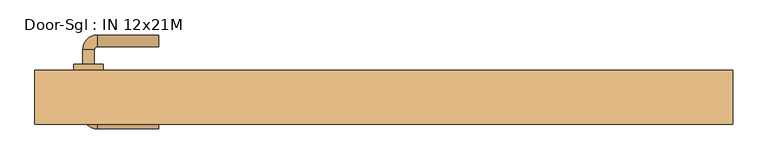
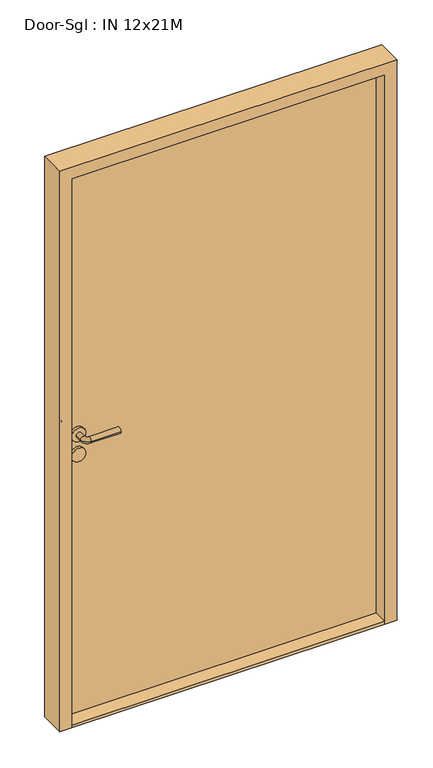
"""IFC4 building model written with IfcOpenShell, lengths in millimetres: door geometry, Door-Sgl : IN 12x21M."""

import ifcopenshell
import ifcopenshell.guid

model = None  # the IFC model being written
_history = None  # IfcOwnerHistory: only IFC2X3 demands one
_inside = {}  # id of a spatial element -> (the spatial element, [elements in it])
_under = {}  # id of a project, library or spatial element -> (it, [spatial elements below it])
_declared = {}  # id of a project -> (the project, [libraries it declares])
_typed = {}  # id of a type object -> (the type object, [elements of that type])
_made_of = {}  # id of a material, layer set ... -> (it, [elements and type objects made of it])


def new_model(schema):
    """Start an empty IFC model of exactly this schema.

    Asked for "IFC4X3", IfcOpenShell would pick the latest addendum, in which some entities
    have other attributes; the version numbers below select the first issue.
    IFC2X3 requires an IfcOwnerHistory on every rooted entity: one is made here for all.
    """
    global model, _history
    if schema == "IFC4X3":
        model = ifcopenshell.file(schema_version=(4, 3, 0, 0))
    else:
        model = ifcopenshell.file(schema=schema)
    _inside.clear()
    _under.clear()
    _declared.clear()
    _typed.clear()
    _made_of.clear()
    _history = None
    if model.schema == "IFC2X3":
        org = make("IfcOrganization", Name="unknown")
        user = make(
            "IfcPersonAndOrganization",
            ThePerson=make("IfcPerson", FamilyName="unknown"),
            TheOrganization=org,
        )
        app = make(
            "IfcApplication",
            ApplicationDeveloper=org,
            Version="unknown",
            ApplicationFullName="unknown",
            ApplicationIdentifier="unknown",
        )
        _history = make(
            "IfcOwnerHistory",
            OwningUser=user,
            OwningApplication=app,
            ChangeAction="ADDED",
            CreationDate=0,
        )
    return model


def make(cls, **values):
    """One entity of the class cls with the attributes given. An attribute that is None is left unset."""
    return model.create_entity(
        cls, **{name: value for name, value in values.items() if value is not None}
    )


def rooted(cls, **values):
    """An entity with a GlobalId (a new one), such as an element, a storey or a relation."""
    return make(cls, GlobalId=ifcopenshell.guid.new(), OwnerHistory=_history, **values)


def si_unit(unit_type, name, prefix=None):
    """IfcSIUnit, for example si_unit("LENGTHUNIT", "METRE", prefix="MILLI")."""
    return make("IfcSIUnit", UnitType=unit_type, Prefix=prefix, Name=name)


def assignment(units):
    """IfcUnitAssignment: the units of a project."""
    return None if units is None else make("IfcUnitAssignment", Units=units)


def point(xyz):
    """IfcCartesianPoint."""
    return None if xyz is None else make("IfcCartesianPoint", Coordinates=xyz)


def direction(xyz):
    """IfcDirection."""
    return None if xyz is None else make("IfcDirection", DirectionRatios=xyz)


def frame(location, z_axis=None, x_axis=None):
    """IfcAxis2Placement3D, a coordinate frame: its origin and axes. An axis left out is left unset."""
    return make(
        "IfcAxis2Placement3D",
        Location=point(location),
        Axis=direction(z_axis),
        RefDirection=direction(x_axis),
    )


def frame_2d(location, x_axis=None):
    """IfcAxis2Placement2D, a coordinate frame in the plane: its origin and x axis."""
    return make(
        "IfcAxis2Placement2D", Location=point(location), RefDirection=direction(x_axis)
    )


def origin():
    """The frame at (0, 0, 0) with its axes left unset."""
    return frame((0.0, 0.0, 0.0))


def origin_with_axes():
    """The frame at (0, 0, 0) with the z axis (0, 0, 1) and the x axis (1, 0, 0) written out."""
    return frame((0.0, 0.0, 0.0), z_axis=(0.0, 0.0, 1.0), x_axis=(1.0, 0.0, 0.0))


def place(relative_to, where):
    """IfcLocalPlacement: puts the frame where relative to a parent placement (None: the world)."""
    return make(
        "IfcLocalPlacement", PlacementRelTo=relative_to, RelativePlacement=where
    )


def context(
    kind, dimensions, precision=None, world=None, true_north=None, identifier=None
):
    """IfcGeometricRepresentationContext, for example the 3D "Model" context."""
    return make(
        "IfcGeometricRepresentationContext",
        ContextIdentifier=identifier,
        ContextType=kind,
        CoordinateSpaceDimension=dimensions,
        Precision=precision,
        WorldCoordinateSystem=world,
        TrueNorth=true_north,
    )


def project(units=None, contexts=None):
    """IfcProject with its units and contexts."""
    return rooted(
        "IfcProject",
        Name="project",
        RepresentationContexts=contexts,
        UnitsInContext=assignment(units),
    )


def spatial(cls, under=None, at=None, **own):
    """A site, building, storey or space (cls), placed at a placement, below another one or the project."""
    s = rooted(cls, ObjectPlacement=at, **own)
    if under is not None:
        _under.setdefault(under.id(), (under, []))[1].append(s)
    return s


def polyline(points):
    """IfcPolyline through the points."""
    return make("IfcPolyline", Points=[point(p) for p in points])


def circle_curve(where, radius):
    """IfcCircle in the frame where."""
    return make("IfcCircle", Position=where, Radius=radius)


def ellipse_curve(where, semi_axis1, semi_axis2):
    """IfcEllipse in the frame where."""
    return make(
        "IfcEllipse", Position=where, SemiAxis1=semi_axis1, SemiAxis2=semi_axis2
    )


def trimmed(basis, trim1, trim2, sense, master):
    """IfcTrimmedCurve: the piece of a basis curve between two trims."""
    return make(
        "IfcTrimmedCurve",
        BasisCurve=basis,
        Trim1=trim1,
        Trim2=trim2,
        SenseAgreement=sense,
        MasterRepresentation=master,
    )


def segment(curve, same_sense, transition):
    """IfcCompositeCurveSegment."""
    return make(
        "IfcCompositeCurveSegment",
        Transition=transition,
        SameSense=same_sense,
        ParentCurve=curve,
    )


def composite_curve(segments, self_intersect=None):
    """IfcCompositeCurve: segments joined end to end."""
    return make("IfcCompositeCurve", Segments=segments, SelfIntersect=self_intersect)


def outline(outer, holes=None, kind="AREA"):
    """IfcArbitraryClosedProfileDef: a profile drawn as a closed curve; with holes, ...WithVoids."""
    if holes is None:
        return make("IfcArbitraryClosedProfileDef", ProfileType=kind, OuterCurve=outer)
    return make(
        "IfcArbitraryProfileDefWithVoids",
        ProfileType=kind,
        OuterCurve=outer,
        InnerCurves=holes,
    )


def extrude(swept, where, along, depth):
    """IfcExtrudedAreaSolid: the profile swept, set in the frame where, extruded along a direction by depth."""
    return make(
        "IfcExtrudedAreaSolid",
        SweptArea=swept,
        Position=where,
        ExtrudedDirection=direction(along),
        Depth=depth,
    )


def shape(context_of_items, identifier, shape_type, items):
    """IfcShapeRepresentation: the items that make up one representation, for example the "Body"."""
    return make(
        "IfcShapeRepresentation",
        ContextOfItems=context_of_items,
        RepresentationIdentifier=identifier,
        RepresentationType=shape_type,
        Items=items,
    )


def source(mapping_origin, context_of_items, identifier, shape_type, items):
    """IfcRepresentationMap: a shape defined once, which mapped items show again and again."""
    return make(
        "IfcRepresentationMap",
        MappingOrigin=mapping_origin,
        MappedRepresentation=shape(context_of_items, identifier, shape_type, items),
    )


def transform(
    local_origin,
    x_axis=None,
    y_axis=None,
    z_axis=None,
    scale=None,
    scale2=None,
    scale3=None,
    uniform=True,
):
    """IfcCartesianTransformationOperator3D, or its non-uniform kind. x_axis, y_axis, z_axis: its Axis1, 2, 3."""
    if uniform:
        return make(
            "IfcCartesianTransformationOperator3D",
            Axis1=direction(x_axis),
            Axis2=direction(y_axis),
            LocalOrigin=point(local_origin),
            Scale=scale,
            Axis3=direction(z_axis),
        )
    return make(
        "IfcCartesianTransformationOperator3DnonUniform",
        Axis1=direction(x_axis),
        Axis2=direction(y_axis),
        LocalOrigin=point(local_origin),
        Scale=scale,
        Axis3=direction(z_axis),
        Scale2=scale2,
        Scale3=scale3,
    )


def mapped(mapping_source, mapping_target):
    """IfcMappedItem: shows the shape of a source again, moved by a transform."""
    return make(
        "IfcMappedItem", MappingSource=mapping_source, MappingTarget=mapping_target
    )


def made_of(thing, what):
    """Note that an element or type object is made of a material, layer set ...; save() writes the relation."""
    if what is not None:
        _made_of.setdefault(what.id(), (what, []))[1].append(thing)
    return thing


def element(
    cls,
    number,
    at=None,
    inside=None,
    cuts=None,
    type_object=None,
    material=None,
    context=None,
    identifier="Body",
    shape_type=None,
    held_by="IfcProductDefinitionShape",
    body=None,
    shapes=None,
    **own,
):
    """One element of the class cls, such as IfcWall. Its Tag is "e" and its number.

    at: its placement. inside: the storey or other place that contains it. cuts: it is an
    opening in that element (IfcRelVoidsElement). A single representation is given by context,
    identifier, shape_type and body (its items); several are given by shapes. held_by: the class
    of the entity that holds the representations. save() writes the other relations.
    """
    e = rooted(cls, Tag="e%d" % number, ObjectPlacement=at, **own)
    if body is not None:
        shapes = [shape(context, identifier, shape_type, body)]
    if shapes is not None:
        e.Representation = make(held_by, Representations=shapes)
    if inside is not None:
        _inside.setdefault(inside.id(), (inside, []))[1].append(e)
    if cuts is not None:
        rooted(
            "IfcRelVoidsElement", RelatingBuildingElement=cuts, RelatedOpeningElement=e
        )
    if type_object is not None:
        _typed.setdefault(type_object.id(), (type_object, []))[1].append(e)
    return made_of(e, material)


def aggregate(whole, parts):
    """IfcRelAggregates: a whole, such as a stair, and the parts it consists of."""
    return rooted("IfcRelAggregates", RelatingObject=whole, RelatedObjects=parts)


def save(model, path):
    """Write the relations noted so far, then the file.

    IfcRelAggregates (storeys below a building ...), IfcRelContainedInSpatialStructure (elements
    in a storey), IfcRelDefinesByType, IfcRelAssociatesMaterial and IfcRelDeclares: one each for
    every whole, place, type object, material and project.
    """
    for whole, parts in _under.values():
        aggregate(whole, parts)
    for where, things in _inside.values():
        rooted(
            "IfcRelContainedInSpatialStructure",
            RelatedElements=things,
            RelatingStructure=where,
        )
    for kind, things in _typed.values():
        rooted("IfcRelDefinesByType", RelatedObjects=things, RelatingType=kind)
    for what, things in _made_of.values():
        rooted("IfcRelAssociatesMaterial", RelatedObjects=things, RelatingMaterial=what)
    for by, libraries in _declared.values():
        rooted("IfcRelDeclares", RelatingContext=by, RelatedDefinitions=libraries)
    model.write(path)


def plane_surface(at):
    """IfcPlane: the flat surface through the origin of the frame at, square to its z axis."""
    return make("IfcPlane", Position=at)


def cylinder_surface(at, radius):
    """IfcCylindricalSurface: all points at the distance radius from the z axis of the frame at."""
    return make("IfcCylindricalSurface", Position=at, Radius=radius)


def revolved_surface(curve, axis_point, axis_direction):
    """IfcSurfaceOfRevolution: the curve turned about the line through axis_point along axis_direction."""
    return make(
        "IfcSurfaceOfRevolution",
        SweptCurve=make("IfcArbitraryOpenProfileDef", ProfileType="CURVE", Curve=curve),
        AxisPosition=make("IfcAxis1Placement", Location=point(axis_point), Axis=direction(axis_direction)),
    )


def advanced_brep(points, edges, surfaces, faces):
    """IfcAdvancedBrep: a solid bounded by faces that lie on surfaces and meet in shared edges.

    An edge is (start, end): straight between two places in points (the first is 0);
    or (start, end, curve); or (start, end, curve, False) where it runs against its curve.
    A face is (place in surfaces, loops), or (place, loops, False) where it looks against
    its surface's normal. A loop lists edges by number (the first is 1), with a minus sign
    where the edge is run from its end to its start. The first loop is the outer one.
    """
    corners = [point(p) for p in points]
    vertices = [make("IfcVertexPoint", VertexGeometry=c) for c in corners]
    made = []
    for start, end, *more in edges:
        made.append(
            make(
                "IfcEdgeCurve",
                EdgeStart=vertices[start],
                EdgeEnd=vertices[end],
                EdgeGeometry=more[0] if more else make("IfcPolyline", Points=[corners[start], corners[end]]),
                SameSense=more[1] if len(more) > 1 else True,
            )
        )
    hull = []
    for where, loops, *sense in faces:
        bounds = []
        for j, loop in enumerate(loops):
            ring = [make("IfcOrientedEdge", EdgeElement=made[abs(k) - 1], Orientation=k > 0) for k in loop]
            bounds.append(
                make(
                    "IfcFaceOuterBound" if j == 0 else "IfcFaceBound",
                    Bound=make("IfcEdgeLoop", EdgeList=ring),
                    Orientation=True,
                )
            )
        hull.append(make("IfcAdvancedFace", Bounds=bounds, FaceSurface=surfaces[where], SameSense=sense[0] if sense else True))
    return make("IfcAdvancedBrep", Outer=make("IfcClosedShell", CfsFaces=hull))


def door_sgl_in_12x21m_94a9fca1(model_context):
    return source(origin(), model_context, "Body", "SolidModel", [
        extrude(outline(polyline([(0.0, 553.0), (0.0, 595.0), (2090.0, 595.0), (2090.0, -595.0), (0.0, -595.0), (0.0, -553.0), (2048.0, -553.0), (2048.0, 553.0), (0.0, 553.0)])), frame((0.0, -6.0, 0.0), z_axis=(0.0, 1.0, 0.0), x_axis=(0.0, 0.0, 1.0)), (0.0, 0.0, 1.0), 92.0),
        extrude(outline(composite_curve([segment(trimmed(circle_curve(frame_2d((1050.0, -503.5)), 25.0), [point((1050.0, -528.5))], [point((1050.0, -478.5))], False, "CARTESIAN"), True, "CONTINUOUS"), segment(trimmed(circle_curve(frame_2d((1050.0, -503.5)), 25.0), [point((1050.0, -478.5))], [point((1050.0, -528.5))], False, "CARTESIAN"), True, "CONTINUOUS")], self_intersect=False)), frame((0.0, 86.0, 0.0), z_axis=(0.0, 1.0, 0.0), x_axis=(0.0, 0.0, 1.0)), (0.0, 0.0, 1.0), 10.0),
        extrude(outline(composite_curve([segment(trimmed(circle_curve(frame_2d((975.0, -503.5)), 25.0), [point((975.0, -528.5))], [point((975.0, -478.5))], False, "CARTESIAN"), True, "CONTINUOUS"), segment(trimmed(circle_curve(frame_2d((975.0, -503.5)), 25.0), [point((975.0, -478.5))], [point((975.0, -528.5))], False, "CARTESIAN"), True, "CONTINUOUS")], self_intersect=False)), frame((0.0, 86.0, 0.0), z_axis=(0.0, 1.0, 0.0), x_axis=(0.0, 0.0, 1.0)), (0.0, 0.0, 1.0), 10.0),
        advanced_brep(
        [(-493.5, 96.0, 1050.0), (-513.5, 96.0, 1050.0), (-493.5, 121.0, 1050.0), (-513.5, 121.0, 1050.0), (-488.5, 146.0, 1050.0), (-488.5, 126.0, 1050.0), (-383.5, 126.0, 1050.0), (-383.5, 146.0, 1050.0)],
        [
            (0, 1, circle_curve(frame((-503.5, 96.0, 1050.0), z_axis=(0.0, -1.0, 0.0), x_axis=(-1.0, 0.0, 0.0)), 10.0)),
            (1, 0, circle_curve(frame((-503.5, 96.0, 1050.0), z_axis=(0.0, -1.0, 0.0), x_axis=(-1.0, 0.0, 0.0)), 10.0)),
            (0, 2),
            (2, 3, circle_curve(frame((-503.5, 121.0, 1050.0), z_axis=(0.0, -1.0, 0.0), x_axis=(-1.0, 0.0, 0.0)), 10.0)),
            (3, 1),
            (3, 2, circle_curve(frame((-503.5, 121.0, 1050.0), z_axis=(0.0, -1.0, 0.0), x_axis=(-1.0, 0.0, 0.0)), 10.0)),
            (4, 3, circle_curve(frame((-488.5, 121.0, 1050.0), z_axis=(0.0, 0.0, 1.0), x_axis=(-1.0, 0.0, 0.0)), 25.0)),
            (2, 5, circle_curve(frame((-488.5, 121.0, 1050.0), z_axis=(0.0, 0.0, -1.0), x_axis=(-1.0, 0.0, 0.0)), 5.0)),
            (5, 4, circle_curve(frame((-488.5, 136.0, 1050.0), z_axis=(-1.0, 0.0, 0.0), x_axis=(0.0, 1.0, 0.0)), 10.0)),
            (4, 5, circle_curve(frame((-488.5, 136.0, 1050.0), z_axis=(-1.0, 0.0, 0.0), x_axis=(0.0, 1.0, 0.0)), 10.0)),
            (6, 7, circle_curve(frame((-383.5, 136.0, 1050.0), z_axis=(1.0, 0.0, 0.0), x_axis=(0.0, 1.0, 0.0)), 10.0)),
            (7, 6, circle_curve(frame((-383.5, 136.0, 1050.0), z_axis=(1.0, 0.0, 0.0), x_axis=(0.0, 1.0, 0.0)), 10.0)),
            (5, 6),
            (7, 4),
        ],
        [
            plane_surface(frame((-503.5, 96.0, 0.0), z_axis=(0.0, -1.0, 0.0), x_axis=(0.0, 0.0, 1.0))),
            cylinder_surface(frame((-503.5, 96.0, 1050.0), z_axis=(0.0, -1.0, 0.0), x_axis=(-1.0, 0.0, 0.0)), 10.0),
            revolved_surface(trimmed(ellipse_curve(frame((-503.5, 121.0, 1050.0), z_axis=(0.0, -1.0, 0.0), x_axis=(-1.0, 0.0, 0.0)), 10.0, 10.0), [point((-493.5, 121.0, 1050.0))], [point((-513.5, 121.0, 1050.0))], True, "CARTESIAN"), (-488.5, 121.0, 0.0), (0.0, 0.0, -1.0)),
            revolved_surface(trimmed(ellipse_curve(frame((-503.5, 121.0, 1050.0), z_axis=(0.0, -1.0, 0.0), x_axis=(-1.0, 0.0, 0.0)), 10.0, 10.0), [point((-513.5, 121.0, 1050.0))], [point((-493.5, 121.0, 1050.0))], True, "CARTESIAN"), (-488.5, 121.0, 0.0), (0.0, 0.0, -1.0)),
            plane_surface(frame((-383.5, 136.0, 0.0), z_axis=(1.0, 0.0, 0.0), x_axis=(0.0, 0.0, 1.0))),
            cylinder_surface(frame((-488.5, 136.0, 1050.0), z_axis=(-1.0, 0.0, 0.0), x_axis=(0.0, 1.0, 0.0)), 10.0),
        ],
        [
            (0, [[1, 2]]),
            (1, [[-1, 3, 4, 5]]),
            (1, [[-2, -5, 6, -3]]),
            (2, [[7, -4, 8, 9]]),
            (3, [[-8, -6, -7, 10]]),
            (4, [[11, 12]]),
            (5, [[-9, 13, -12, 14]]),
            (5, [[-10, -14, -11, -13]]),
        ],
    ),
        extrude(outline(composite_curve([segment(trimmed(circle_curve(frame_2d((1050.0, -503.5)), 25.0), [point((1050.0, -528.5))], [point((1050.0, -478.5))], False, "CARTESIAN"), True, "CONTINUOUS"), segment(trimmed(circle_curve(frame_2d((1050.0, -503.5)), 25.0), [point((1050.0, -478.5))], [point((1050.0, -528.5))], False, "CARTESIAN"), True, "CONTINUOUS")], self_intersect=False)), frame((0.0, 36.0, 0.0), z_axis=(0.0, 1.0, 0.0), x_axis=(0.0, 0.0, 1.0)), (0.0, 0.0, 1.0), 10.0),
        extrude(outline(composite_curve([segment(trimmed(circle_curve(frame_2d((975.0, -503.5)), 25.0), [point((975.0, -528.5))], [point((975.0, -478.5))], False, "CARTESIAN"), True, "CONTINUOUS"), segment(trimmed(circle_curve(frame_2d((975.0, -503.5)), 25.0), [point((975.0, -478.5))], [point((975.0, -528.5))], False, "CARTESIAN"), True, "CONTINUOUS")], self_intersect=False)), frame((0.0, 36.0, 0.0), z_axis=(0.0, 1.0, 0.0), x_axis=(0.0, 0.0, 1.0)), (0.0, 0.0, 1.0), 10.0),
        advanced_brep(
        [(-513.5, 36.0, 1050.0), (-493.5, 36.0, 1050.0), (-493.5, 11.0, 1050.0), (-513.5, 11.0, 1050.0), (-488.5, -14.0, 1050.0), (-488.5, 6.0, 1050.0), (-383.5, -14.0, 1050.0), (-383.5, 6.0, 1050.0)],
        [
            (0, 1, circle_curve(frame((-503.5, 36.0, 1050.0), z_axis=(0.0, 1.0, 0.0), x_axis=(1.0, 0.0, 0.0)), 10.0)),
            (1, 0, circle_curve(frame((-503.5, 36.0, 1050.0), z_axis=(0.0, 1.0, 0.0), x_axis=(1.0, 0.0, 0.0)), 10.0)),
            (1, 2),
            (2, 3, circle_curve(frame((-503.5, 11.0, 1050.0), z_axis=(0.0, 1.0, 0.0), x_axis=(1.0, 0.0, 0.0)), 10.0)),
            (3, 0),
            (3, 2, circle_curve(frame((-503.5, 11.0, 1050.0), z_axis=(0.0, 1.0, 0.0), x_axis=(1.0, 0.0, 0.0)), 10.0)),
            (4, 3, circle_curve(frame((-488.5, 11.0, 1050.0), z_axis=(0.0, 0.0, -1.0), x_axis=(-1.0, 0.0, 0.0)), 25.0)),
            (2, 5, circle_curve(frame((-488.5, 11.0, 1050.0), z_axis=(0.0, 0.0, 1.0), x_axis=(-1.0, 0.0, 0.0)), 5.0)),
            (5, 4, circle_curve(frame((-488.5, -4.0, 1050.0), z_axis=(-1.0, 0.0, 0.0), x_axis=(0.0, 1.0, 0.0)), 10.0)),
            (4, 5, circle_curve(frame((-488.5, -4.0, 1050.0), z_axis=(-1.0, 0.0, 0.0), x_axis=(0.0, 1.0, 0.0)), 10.0)),
            (6, 7, circle_curve(frame((-383.5, -4.0, 1050.0), z_axis=(1.0, 0.0, 0.0), x_axis=(0.0, 1.0, 0.0)), 10.0)),
            (7, 6, circle_curve(frame((-383.5, -4.0, 1050.0), z_axis=(1.0, 0.0, 0.0), x_axis=(0.0, 1.0, 0.0)), 10.0)),
            (5, 7),
            (6, 4),
        ],
        [
            plane_surface(frame((-503.5, 36.0, 0.0), z_axis=(0.0, 1.0, 0.0), x_axis=(0.0, 0.0, 1.0))),
            cylinder_surface(frame((-503.5, 36.0, 1050.0), z_axis=(0.0, 1.0, 0.0), x_axis=(1.0, 0.0, 0.0)), 10.0),
            revolved_surface(trimmed(ellipse_curve(frame((-503.5, 11.0, 1050.0), z_axis=(0.0, 1.0, 0.0), x_axis=(1.0, 0.0, 0.0)), 10.0, 10.0), [point((-493.5, 11.0, 1050.0))], [point((-513.5, 11.0, 1050.0))], True, "CARTESIAN"), (-488.5, 11.0, 0.0), (0.0, 0.0, 1.0)),
            revolved_surface(trimmed(ellipse_curve(frame((-503.5, 11.0, 1050.0), z_axis=(0.0, 1.0, 0.0), x_axis=(1.0, 0.0, 0.0)), 10.0, 10.0), [point((-513.5, 11.0, 1050.0))], [point((-493.5, 11.0, 1050.0))], True, "CARTESIAN"), (-488.5, 11.0, 0.0), (0.0, 0.0, 1.0)),
            plane_surface(frame((-383.5, -4.0, 0.0), z_axis=(1.0, 0.0, 0.0), x_axis=(0.0, 0.0, 1.0))),
            cylinder_surface(frame((-488.5, -4.0, 1050.0), z_axis=(-1.0, 0.0, 0.0), x_axis=(0.0, 1.0, 0.0)), 10.0),
        ],
        [
            (0, [[1, 2]]),
            (1, [[-2, 3, 4, 5]]),
            (1, [[-1, -5, 6, -3]]),
            (2, [[7, -4, 8, 9]]),
            (3, [[-8, -6, -7, 10]]),
            (4, [[11, 12]]),
            (5, [[-9, 13, -11, 14]]),
            (5, [[-10, -14, -12, -13]]),
        ],
    ),
        extrude(outline(polyline([(553.0, 46.0), (-553.0, 46.0), (-553.0, 86.0), (553.0, 86.0), (553.0, 46.0)])), frame((0.0, 0.0, 10.0), z_axis=(0.0, 0.0, 1.0), x_axis=(1.0, 0.0, 0.0)), (0.0, 0.0, 1.0), 2038.0),
        extrude(outline(polyline([(553.0, -6.0), (-553.0, -6.0), (-553.0, 86.0), (553.0, 86.0), (553.0, -6.0)])), origin_with_axes(), (0.0, 0.0, 1.0), 10.0),
    ])


if __name__ == "__main__":
    model = new_model("IFC4")
    model_context = context("Model", 3, world=origin())
    ifc_project = project(units=[si_unit("LENGTHUNIT", "METRE", prefix="MILLI")], contexts=[model_context])
    site = spatial("IfcSite", under=ifc_project)
    building = spatial("IfcBuilding", under=site)
    placement = place(None, origin())
    door_sgl_in_12x21m_shape = door_sgl_in_12x21m_94a9fca1(model_context)
    element("IfcDoor", 1, ObjectType="Door-Sgl : IN 12x21M", at=placement, inside=building, context=model_context, shape_type="MappedRepresentation", body=[
        mapped(door_sgl_in_12x21m_shape, transform((0.0, 0.0, 0.0), x_axis=(1.0, 0.0, 0.0), y_axis=(0.0, 1.0, 0.0), z_axis=(0.0, 0.0, 1.0))),
    ])
    save(model, "model.ifc")
